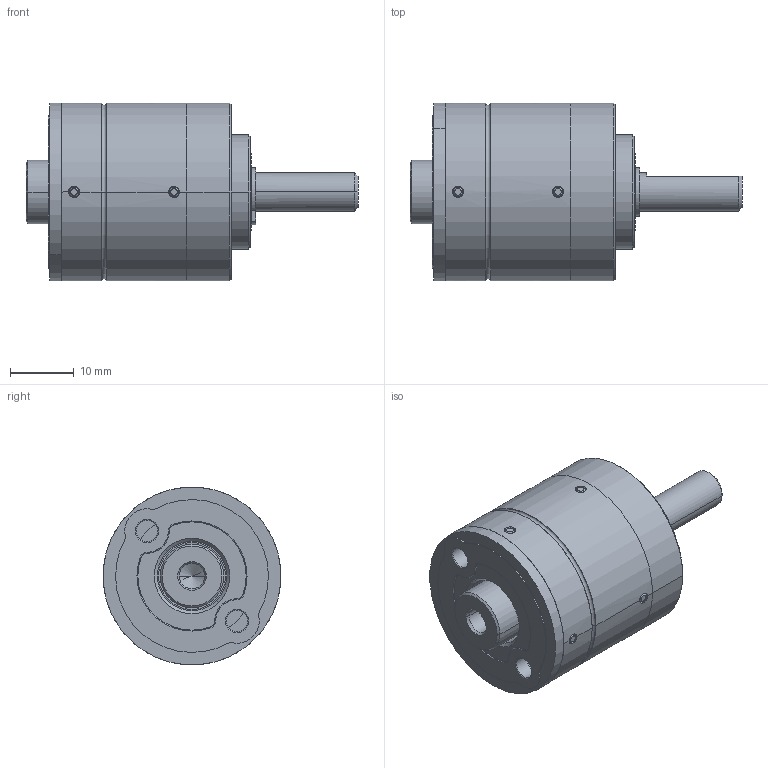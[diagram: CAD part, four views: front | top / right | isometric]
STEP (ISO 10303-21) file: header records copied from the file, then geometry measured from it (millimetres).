
FILE_DESCRIPTION((''),'2;1');
FILE_NAME('IMS28_PRO_MAX_LN_1_STAGE_ASM','2023-07-27T10:52:38',('mhummel'),(''),'CREO PARAMETRIC BY PTC INC, 2020184','CREO PARAMETRIC BY PTC INC, 2020184','');
FILE_SCHEMA(('AUTOMOTIVE_DESIGN { 1 0 10303 214 1 1 1 1 }'));
Length unit declared in the file: millimetre
Products named in the file (13): IMS28_PRO_MAX_LN_BEARING_FLANGE; IMS28_PRO_MAX_LN_BALL_BEARING; IMS28_PRO_MAX_LN_RINGGEAR1STAGE; IMS28_PRO_MAX_LN_MOTOR_FLANGE; IMS28_PRO_MAX_LN_SHAFT_RAW_AF0; IMS28_PRO_MAX_LN_SHAFT_ASM; IMS28_PRO_MAX_LN_SHIM_RING; IMS28_PRO_MAX_LN_RETAINING_RING; IMS28_PRO_MAX_LN_THRUST_WASHER; IMS28_PRO_MAX_LN_CYLINDER_PIN; IMS28_PRO_MAX_LN_MO_PINION_LONG; IMS28_PRO_MAX_LN_MOPINION_SHORT; IMS28_PRO_MAX_LN_1_STAGE_ASM
Assembly tree (20 placements, depth 3):
  IMS28_PRO_MAX_LN_1_STAGE_ASM
    IMS28_PRO_MAX_LN_BEARING_FLANGE
    IMS28_PRO_MAX_LN_BALL_BEARING  x2
    IMS28_PRO_MAX_LN_RINGGEAR1STAGE
    IMS28_PRO_MAX_LN_MOTOR_FLANGE
    IMS28_PRO_MAX_LN_SHAFT_ASM
      IMS28_PRO_MAX_LN_SHAFT_RAW_AF0
    IMS28_PRO_MAX_LN_SHIM_RING
    IMS28_PRO_MAX_LN_RETAINING_RING
    IMS28_PRO_MAX_LN_THRUST_WASHER
    IMS28_PRO_MAX_LN_CYLINDER_PIN  x8
    IMS28_PRO_MAX_LN_MO_PINION_LONG
    IMS28_PRO_MAX_LN_MOPINION_SHORT
Bounding box: 52.15 x 27.95 x 27.95 mm (x, y, z)
Volume: 14797.8 mm3; surface area: 14331.3 mm2
Topology: 23 solids, 25 shells, 428 faces, 958 edges, 579 vertices
Faces by surface type: cylinder 182, plane 82, torus 72, cone 60, revolution 32
Entity records: 13562 total; most frequent: CARTESIAN_POINT 2149, DIRECTION 1890, ORIENTED_EDGE 1556, PRESENTATION_STYLE_ASSIGNMENT 817, AXIS2_PLACEMENT_3D 808, STYLED_ITEM 805, CURVE_STYLE 778, EDGE_CURVE 778
